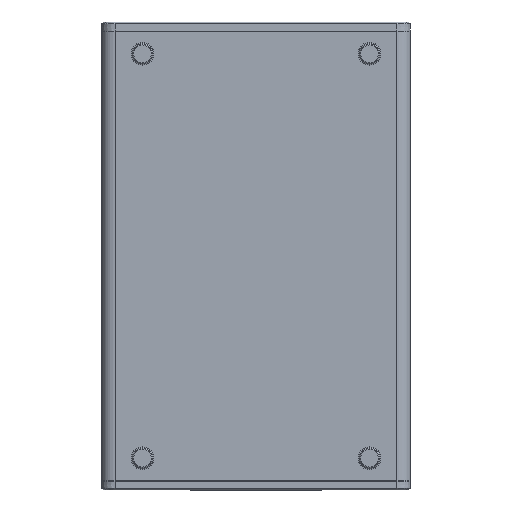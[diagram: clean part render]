
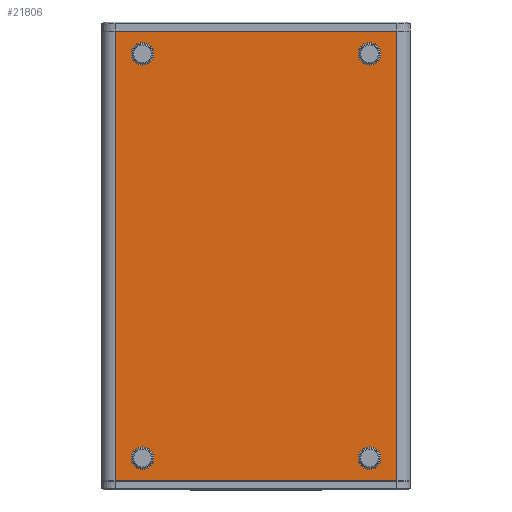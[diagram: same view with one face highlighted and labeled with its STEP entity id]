
A CAD part, left-side view. The second image highlights one B-rep face of the part: STEP entity #21806.
In plain terms, the highlighted planar face has unit normal (-1, 0, 0).
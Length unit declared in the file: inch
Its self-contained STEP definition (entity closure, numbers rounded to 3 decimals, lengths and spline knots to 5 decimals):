
#161=DIRECTION('',(0.,-1.,0.));
#162=VECTOR('',#161,6.2);
#163=CARTESIAN_POINT('',(-0.65,3.1,-4.95));
#164=LINE('',#163,#162);
#3653=DIRECTION('',(0.,0.,-1.));
#3654=VECTOR('',#3653,9.9);
#3655=CARTESIAN_POINT('',(-0.65,-3.1,4.95));
#3656=LINE('',#3655,#3654);
#3657=DIRECTION('',(0.,0.,-1.));
#3658=VECTOR('',#3657,9.9);
#3659=CARTESIAN_POINT('',(-0.65,3.1,4.95));
#3660=LINE('',#3659,#3658);
#3661=DIRECTION('',(0.,1.,0.));
#3662=VECTOR('',#3661,6.2);
#3663=CARTESIAN_POINT('',(-0.65,-3.1,4.95));
#3664=LINE('',#3663,#3662);
#3665=CARTESIAN_POINT('',(-0.65,-2.5,4.45));
#3666=DIRECTION('',(-1.,0.,0.));
#3667=DIRECTION('',(0.,-1.,0.));
#3668=AXIS2_PLACEMENT_3D('',#3665,#3666,#3667);
#3670=CARTESIAN_POINT('',(-0.65,-2.5,4.45));
#3671=DIRECTION('',(-1.,0.,0.));
#3672=DIRECTION('',(0.,1.,0.));
#3673=AXIS2_PLACEMENT_3D('',#3670,#3671,#3672);
#3675=CARTESIAN_POINT('',(-0.65,2.5,4.45));
#3676=DIRECTION('',(-1.,0.,0.));
#3677=DIRECTION('',(0.,0.,-1.));
#3678=AXIS2_PLACEMENT_3D('',#3675,#3676,#3677);
#3680=CARTESIAN_POINT('',(-0.65,2.5,4.45));
#3681=DIRECTION('',(-1.,0.,0.));
#3682=DIRECTION('',(0.,0.,1.));
#3683=AXIS2_PLACEMENT_3D('',#3680,#3681,#3682);
#3685=CARTESIAN_POINT('',(-0.65,2.5,-4.45));
#3686=DIRECTION('',(-1.,0.,0.));
#3687=DIRECTION('',(0.,0.,1.));
#3688=AXIS2_PLACEMENT_3D('',#3685,#3686,#3687);
#3690=CARTESIAN_POINT('',(-0.65,2.5,-4.45));
#3691=DIRECTION('',(-1.,0.,0.));
#3692=DIRECTION('',(0.,0.,-1.));
#3693=AXIS2_PLACEMENT_3D('',#3690,#3691,#3692);
#3695=CARTESIAN_POINT('',(-0.65,-2.5,-4.45));
#3696=DIRECTION('',(-1.,0.,0.));
#3697=DIRECTION('',(0.,0.,-1.));
#3698=AXIS2_PLACEMENT_3D('',#3695,#3696,#3697);
#3700=CARTESIAN_POINT('',(-0.65,-2.5,-4.45));
#3701=DIRECTION('',(-1.,0.,0.));
#3702=DIRECTION('',(0.,0.,1.));
#3703=AXIS2_PLACEMENT_3D('',#3700,#3701,#3702);
#16963=CARTESIAN_POINT('',(-0.65,-3.1,-4.95));
#16965=VERTEX_POINT('',#16963);
#16970=CARTESIAN_POINT('',(-0.65,3.1,-4.95));
#16972=VERTEX_POINT('',#16970);
#18018=CARTESIAN_POINT('',(-0.65,-2.75,4.45));
#18019=CARTESIAN_POINT('',(-0.65,-2.25,4.45));
#18020=VERTEX_POINT('',#18018);
#18021=VERTEX_POINT('',#18019);
#18042=CARTESIAN_POINT('',(-0.65,2.5,4.2));
#18043=CARTESIAN_POINT('',(-0.65,2.5,4.7));
#18044=VERTEX_POINT('',#18042);
#18045=VERTEX_POINT('',#18043);
#18066=CARTESIAN_POINT('',(-0.65,2.5,-4.2));
#18067=CARTESIAN_POINT('',(-0.65,2.5,-4.7));
#18068=VERTEX_POINT('',#18066);
#18069=VERTEX_POINT('',#18067);
#18090=CARTESIAN_POINT('',(-0.65,-2.5,-4.7));
#18091=CARTESIAN_POINT('',(-0.65,-2.5,-4.2));
#18092=VERTEX_POINT('',#18090);
#18093=VERTEX_POINT('',#18091);
#18666=CARTESIAN_POINT('',(-0.65,-3.1,4.95));
#18667=CARTESIAN_POINT('',(-0.65,3.1,4.95));
#18668=VERTEX_POINT('',#18666);
#18669=VERTEX_POINT('',#18667);
#21770=CARTESIAN_POINT('',(-0.65,3.4,-4.95));
#21771=DIRECTION('',(-1.,0.,0.));
#21772=DIRECTION('',(0.,-1.,0.));
#21773=AXIS2_PLACEMENT_3D('',#21770,#21771,#21772);
#21774=PLANE('',#21773);
#21775=ORIENTED_EDGE('',*,*,#21736,.T.);
#21776=ORIENTED_EDGE('',*,*,#19775,.F.);
#21778=ORIENTED_EDGE('',*,*,#21777,.F.);
#21779=ORIENTED_EDGE('',*,*,#21760,.F.);
#21780=EDGE_LOOP('',(#21775,#21776,#21778,#21779));
#21781=FACE_OUTER_BOUND('',#21780,.F.);
#21783=ORIENTED_EDGE('',*,*,#21782,.T.);
#21785=ORIENTED_EDGE('',*,*,#21784,.T.);
#21786=EDGE_LOOP('',(#21783,#21785));
#21787=FACE_BOUND('',#21786,.F.);
#21789=ORIENTED_EDGE('',*,*,#21788,.T.);
#21791=ORIENTED_EDGE('',*,*,#21790,.T.);
#21792=EDGE_LOOP('',(#21789,#21791));
#21793=FACE_BOUND('',#21792,.F.);
#21795=ORIENTED_EDGE('',*,*,#21794,.T.);
#21797=ORIENTED_EDGE('',*,*,#21796,.T.);
#21798=EDGE_LOOP('',(#21795,#21797));
#21799=FACE_BOUND('',#21798,.F.);
#21801=ORIENTED_EDGE('',*,*,#21800,.T.);
#21803=ORIENTED_EDGE('',*,*,#21802,.T.);
#21804=EDGE_LOOP('',(#21801,#21803));
#21805=FACE_BOUND('',#21804,.F.);
#21806=ADVANCED_FACE('',(#21781,#21787,#21793,#21799,#21805),#21774,.T.);
#3669=CIRCLE('',#3668,0.25);
#3674=CIRCLE('',#3673,0.25);
#3679=CIRCLE('',#3678,0.25);
#3684=CIRCLE('',#3683,0.25);
#3689=CIRCLE('',#3688,0.25);
#3694=CIRCLE('',#3693,0.25);
#3699=CIRCLE('',#3698,0.25);
#3704=CIRCLE('',#3703,0.25);
#19775=EDGE_CURVE('',#16972,#16965,#164,.T.);
#21736=EDGE_CURVE('',#18668,#16965,#3656,.T.);
#21760=EDGE_CURVE('',#18668,#18669,#3664,.T.);
#21777=EDGE_CURVE('',#18669,#16972,#3660,.T.);
#21782=EDGE_CURVE('',#18020,#18021,#3669,.T.);
#21784=EDGE_CURVE('',#18021,#18020,#3674,.T.);
#21788=EDGE_CURVE('',#18044,#18045,#3679,.T.);
#21790=EDGE_CURVE('',#18045,#18044,#3684,.T.);
#21794=EDGE_CURVE('',#18068,#18069,#3689,.T.);
#21796=EDGE_CURVE('',#18069,#18068,#3694,.T.);
#21800=EDGE_CURVE('',#18092,#18093,#3699,.T.);
#21802=EDGE_CURVE('',#18093,#18092,#3704,.T.);
